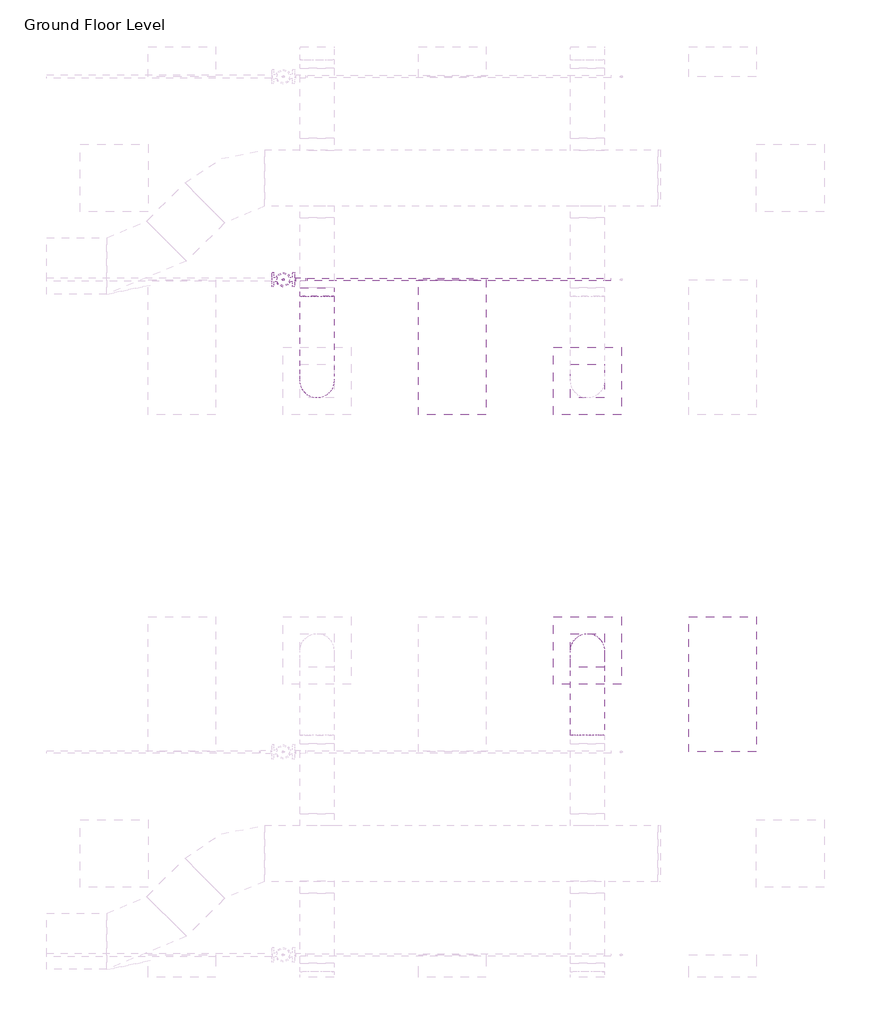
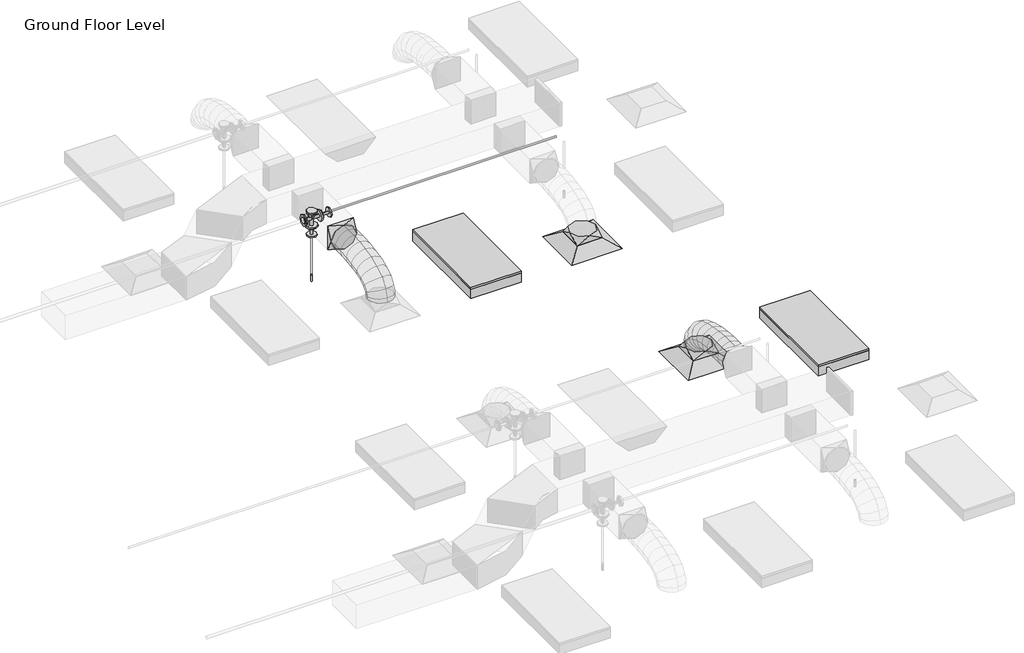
# One storey, part 37 of 66: 3 duct fittings, 3 pipe fittings, 2 air terminals, 2 duct segments, 2 light fixtures, 2 pipe segments, 1 fire suppression terminal.
"""IFC4 building model written with IfcOpenShell, lengths in millimetres."""

from ifc_helpers import new_model, si_unit, point, frame, frame_2d, origin, place, context, project, spatial, circle_curve, ellipse_curve, trimmed, segment, composite_curve, outline, extrude, transform, mapped, element, save
from ifc_brep_helpers import plane_surface, cylinder_surface, advanced_brep
from components import m_return_diffuser_600_x_600_face_300_x_300_connection_ff221211, m_rectangular_to_round_transition_angle_45_degree_641efff0, m_sprinkler_dry_pendent_hosted_15_mm_dry_pendent_9bda8e11, m_troffer_light_parabolic_rectangular1_0600x1200mm_4_lamp_86473d4a, m_reducer_flanged_cs_class_150_standard_ccf252ad, m_tee_round_base_flanged_cs_class_150_standard_7e5987a1

model = new_model("IFC4")

# Units and contexts
model_context = context("Model", 3, world=origin())
ifc_project = project(units=[si_unit("LENGTHUNIT", "METRE", prefix="MILLI")], contexts=[model_context])

# Site, building, storey
site = spatial("IfcSite", under=ifc_project)
building = spatial("IfcBuilding", under=site)
storey = spatial("IfcBuildingStorey", under=building, Name="Ground Floor Level", Elevation=900.0)

# Air terminals
placement = place(None, origin())
m_return_diffuser_600_x_600_face_300_x_300_connection_shape = m_return_diffuser_600_x_600_face_300_x_300_connection_ff221211(model_context)
element("IfcAirTerminal", 1, ObjectType="M_Supply Diffuser : 600 x 600 Face 300 x 300 Connection", at=placement, inside=storey, context=model_context, shape_type="MappedRepresentation", body=[
    mapped(m_return_diffuser_600_x_600_face_300_x_300_connection_shape, transform((13142.7672395, -1074.7846466, 3650.0), x_axis=(1.0, 0.0, 0.0), y_axis=(0.0, 1.0, 0.0), z_axis=(0.0, 0.0, 1.0))),
])
element("IfcAirTerminal", 2, ObjectType="M_Supply Diffuser : 600 x 600 Face 300 x 300 Connection", at=placement, inside=storey, context=model_context, shape_type="MappedRepresentation", body=[
    mapped(m_return_diffuser_600_x_600_face_300_x_300_connection_shape, transform((13142.7672395, -3464.7846466, 3650.0), x_axis=(1.0, 0.0, 0.0), y_axis=(0.0, 1.0, 0.0), z_axis=(0.0, 0.0, 1.0))),
])

# Duct fittings
m_rectangular_to_round_transition_angle_45_degree_shape = m_rectangular_to_round_transition_angle_45_degree_641efff0(model_context)
element("IfcDuctFitting", 3, ObjectType="M_Rectangular to Round Transition - Angle : 45 Degree", at=placement, inside=storey, context=model_context, shape_type="MappedRepresentation", body=[
    mapped(m_rectangular_to_round_transition_angle_45_degree_shape, transform((13142.7672395, -3464.7846466, 3751.6), x_axis=(0.0, 0.0, 1.0), y_axis=(-1.0, 0.0, 0.0), z_axis=(0.0, -1.0, 0.0))),
])
element("IfcDuctFitting", 4, ObjectType="M_Rectangular to Round Transition - Angle : 45 Degree", at=placement, inside=storey, context=model_context, shape_type="MappedRepresentation", body=[
    mapped(m_rectangular_to_round_transition_angle_45_degree_shape, transform((10742.7672395, -247.4487153, 4100.0), x_axis=(0.0, -1.0, 0.0), y_axis=(1.0, 0.0, 0.0), z_axis=(0.0, 0.0, 1.0))),
])
element("IfcDuctFitting", 5, ObjectType="M_Rectangular to Round Transition - Angle : 45 Degree", at=placement, inside=storey, context=model_context, shape_type="MappedRepresentation", body=[
    mapped(m_rectangular_to_round_transition_angle_45_degree_shape, transform((13142.7672395, -1074.7846466, 3751.6), x_axis=(0.0, 0.0, 1.0), y_axis=(-1.0, 0.0, 0.0), z_axis=(0.0, -1.0, 0.0))),
])

# Duct segments
element("IfcDuctSegment", 6, ObjectType="Flex - Round", at=placement, inside=storey, context=model_context, shape_type="AdvancedBrep", body=[
    advanced_brep(
    [(13292.7672395, -3464.7846466, 3826.6), (13142.7672395, -3614.7846466, 3826.6), (12992.7672395, -3464.7846466, 3826.6), (13142.7672395, -3314.7846466, 3826.6), (13292.7672395, -3464.7846466, 3857.9377114), (13142.7672395, -3614.7846466, 3832.2944892), (12992.7672395, -3464.7846466, 3857.9377114), (13142.7672395, -3314.7846466, 3883.5809337), (13292.7672395, -3481.8005792, 3906.2505728), (13142.7672395, -3615.5385581, 3834.435049), (12992.7672395, -3481.8005792, 3906.2505728), (13142.7672395, -3348.0626002, 3978.0660967), (13292.7672395, -3528.9844595, 3968.7113131), (13142.7672395, -3633.1903588, 3857.8020236), (12992.7672395, -3528.9844595, 3968.7113131), (13142.7672395, -3424.7785603, 4079.6206026), (13292.7672395, -3600.5404117, 4016.0700639), (13142.7672395, -3669.4744673, 3881.8163788), (12992.7672395, -3600.5404117, 4016.0700639), (13142.7672395, -3531.606356, 4150.3237489), (13292.7672395, -3690.6725597, 4050.4146682), (13142.7672395, -3734.2333228, 3906.4925606), (12992.7672395, -3690.6725597, 4050.4146682), (13142.7672395, -3647.1117965, 4194.3367758), (13292.7672395, -3793.5850275, 4073.8329691), (13142.7672395, -3820.1459515, 3926.0424542), (12992.7672395, -3793.5850275, 4073.8329691), (13142.7672395, -3767.0241035, 4221.6234841), (13292.7672395, -3903.4819392, 4088.4128097), (13142.7672395, -3918.6328416, 3939.1085462), (12992.7672395, -3903.4819392, 4088.4128097), (13142.7672395, -3888.3310369, 4237.7170733), (13292.7672395, -4014.5674189, 4096.242033), (13142.7672395, -4022.0727471, 3946.398915), (12992.7672395, -4014.5674189, 4096.242033), (13142.7672395, -4007.0620907, 4246.085151), (13292.7672395, -4121.0455904, 4099.4084821), (13142.7672395, -4123.7370835, 3949.4222102), (12992.7672395, -4121.0455904, 4099.4084821), (13142.7672395, -4118.3540973, 4249.394754), (13292.7672395, -4217.1205779, 4100.0), (13142.7672395, -4216.1970701, 4249.9971571), (12992.7672395, -4217.1205779, 4100.0), (13142.7672395, -4218.0440857, 3950.0028429)],
    [
        (0, 1, circle_curve(frame((13142.7672395, -3464.7846466, 3826.6), z_axis=(0.0, 0.0, -1.0), x_axis=(1.0, 0.0, 0.0)), 150.0)),
        (1, 2, circle_curve(frame((13142.7672395, -3464.7846466, 3826.6), z_axis=(0.0, 0.0, -1.0), x_axis=(1.0, 0.0, 0.0)), 150.0)),
        (2, 3, circle_curve(frame((13142.7672395, -3464.7846466, 3826.6), z_axis=(0.0, 0.0, -1.0), x_axis=(1.0, 0.0, 0.0)), 150.0)),
        (3, 0, circle_curve(frame((13142.7672395, -3464.7846466, 3826.6), z_axis=(0.0, 0.0, -1.0), x_axis=(1.0, 0.0, 0.0)), 150.0)),
        (0, 4),
        (4, 5, ellipse_curve(frame((13142.7672395, -3464.7846466, 3857.9377114), z_axis=(0.0, 0.16851014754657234, -0.9856999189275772), x_axis=(0.0, -0.9856999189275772, -0.1685101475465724)), 152.176131, 150.0)),
        (5, 1),
        (5, 6, ellipse_curve(frame((13142.7672395, -3464.7846466, 3857.9377114), z_axis=(0.0, 0.16851014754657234, -0.9856999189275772), x_axis=(0.0, -0.9856999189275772, -0.1685101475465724)), 152.176131, 150.0)),
        (6, 2),
        (6, 7, ellipse_curve(frame((13142.7672395, -3464.7846466, 3857.9377114), z_axis=(0.0, 0.16851014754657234, -0.9856999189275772), x_axis=(0.0, -0.9856999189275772, -0.1685101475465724)), 152.176131, 150.0)),
        (7, 3),
        (7, 4, ellipse_curve(frame((13142.7672395, -3464.7846466, 3857.9377114), z_axis=(0.0, 0.16851014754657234, -0.9856999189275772), x_axis=(0.0, -0.9856999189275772, -0.1685101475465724)), 152.176131, 150.0)),
        (4, 8),
        (8, 9, ellipse_curve(frame((13142.7672395, -3481.8005792, 3906.2505728), z_axis=(0.0, 0.47309225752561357, -0.8810128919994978), x_axis=(0.0, -0.8810128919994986, -0.47309225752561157)), 151.8002519, 150.0)),
        (9, 5),
        (9, 10, ellipse_curve(frame((13142.7672395, -3481.8005792, 3906.2505728), z_axis=(0.0, 0.47309225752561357, -0.8810128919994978), x_axis=(0.0, -0.8810128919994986, -0.47309225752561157)), 151.8002519, 150.0)),
        (10, 6),
        (10, 11, ellipse_curve(frame((13142.7672395, -3481.8005792, 3906.2505728), z_axis=(0.0, 0.47309225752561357, -0.8810128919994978), x_axis=(0.0, -0.8810128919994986, -0.47309225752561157)), 151.8002519, 150.0)),
        (11, 7),
        (11, 8, ellipse_curve(frame((13142.7672395, -3481.8005792, 3906.2505728), z_axis=(0.0, 0.47309225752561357, -0.8810128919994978), x_axis=(0.0, -0.8810128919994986, -0.47309225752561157)), 151.8002519, 150.0)),
        (8, 12),
        (12, 13, ellipse_curve(frame((13142.7672395, -3528.9844595, 3968.7113131), z_axis=(0.0, 0.7287877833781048, -0.6847396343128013), x_axis=(0.0, -0.6847396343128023, -0.7287877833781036)), 152.1832446, 150.0)),
        (13, 9),
        (13, 14, ellipse_curve(frame((13142.7672395, -3528.9844595, 3968.7113131), z_axis=(0.0, 0.7287877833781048, -0.6847396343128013), x_axis=(0.0, -0.6847396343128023, -0.7287877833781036)), 152.1832446, 150.0)),
        (14, 10),
        (14, 15, ellipse_curve(frame((13142.7672395, -3528.9844595, 3968.7113131), z_axis=(0.0, 0.7287877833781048, -0.6847396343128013), x_axis=(0.0, -0.6847396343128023, -0.7287877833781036)), 152.1832446, 150.0)),
        (15, 11),
        (15, 12, ellipse_curve(frame((13142.7672395, -3528.9844595, 3968.7113131), z_axis=(0.0, 0.7287877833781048, -0.6847396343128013), x_axis=(0.0, -0.6847396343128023, -0.7287877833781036)), 152.1832446, 150.0)),
        (12, 16),
        (16, 17, ellipse_curve(frame((13142.7672395, -3600.5404117, 4016.0700639), z_axis=(0.0, 0.8895859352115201, -0.45676784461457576), x_axis=(0.0, -0.45676784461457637, -0.8895859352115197)), 150.91705, 150.0)),
        (17, 13),
        (17, 18, ellipse_curve(frame((13142.7672395, -3600.5404117, 4016.0700639), z_axis=(0.0, 0.8895859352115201, -0.45676784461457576), x_axis=(0.0, -0.45676784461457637, -0.8895859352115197)), 150.91705, 150.0)),
        (18, 14),
        (18, 19, ellipse_curve(frame((13142.7672395, -3600.5404117, 4016.0700639), z_axis=(0.0, 0.8895859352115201, -0.45676784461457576), x_axis=(0.0, -0.45676784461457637, -0.8895859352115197)), 150.91705, 150.0)),
        (19, 15),
        (19, 16, ellipse_curve(frame((13142.7672395, -3600.5404117, 4016.0700639), z_axis=(0.0, 0.8895859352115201, -0.45676784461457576), x_axis=(0.0, -0.45676784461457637, -0.8895859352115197)), 150.91705, 150.0)),
        (16, 20),
        (20, 21, ellipse_curve(frame((13142.7672395, -3690.6725597, 4050.4146682), z_axis=(0.0, 0.9571203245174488, -0.2896906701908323), x_axis=(0.0, -0.2896906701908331, -0.9571203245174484)), 150.369921, 150.0)),
        (21, 17),
        (21, 22, ellipse_curve(frame((13142.7672395, -3690.6725597, 4050.4146682), z_axis=(0.0, 0.9571203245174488, -0.2896906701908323), x_axis=(0.0, -0.2896906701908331, -0.9571203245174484)), 150.369921, 150.0)),
        (22, 18),
        (22, 23, ellipse_curve(frame((13142.7672395, -3690.6725597, 4050.4146682), z_axis=(0.0, 0.9571203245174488, -0.2896906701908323), x_axis=(0.0, -0.2896906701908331, -0.9571203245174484)), 150.369921, 150.0)),
        (23, 19),
        (23, 20, ellipse_curve(frame((13142.7672395, -3690.6725597, 4050.4146682), z_axis=(0.0, 0.9571203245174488, -0.2896906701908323), x_axis=(0.0, -0.2896906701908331, -0.9571203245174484)), 150.369921, 150.0)),
        (20, 24),
        (24, 25, ellipse_curve(frame((13142.7672395, -3793.5850275, 4073.8329691), z_axis=(0.0, 0.9842313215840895, -0.17688613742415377), x_axis=(0.0, -0.17688613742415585, -0.9842313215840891)), 150.1583131, 150.0)),
        (25, 21),
        (25, 26, ellipse_curve(frame((13142.7672395, -3793.5850275, 4073.8329691), z_axis=(0.0, 0.9842313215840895, -0.17688613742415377), x_axis=(0.0, -0.17688613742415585, -0.9842313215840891)), 150.1583131, 150.0)),
        (26, 22),
        (26, 27, ellipse_curve(frame((13142.7672395, -3793.5850275, 4073.8329691), z_axis=(0.0, 0.9842313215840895, -0.17688613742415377), x_axis=(0.0, -0.17688613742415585, -0.9842313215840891)), 150.1583131, 150.0)),
        (27, 23),
        (27, 24, ellipse_curve(frame((13142.7672395, -3793.5850275, 4073.8329691), z_axis=(0.0, 0.9842313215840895, -0.17688613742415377), x_axis=(0.0, -0.17688613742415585, -0.9842313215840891)), 150.1583131, 150.0)),
        (24, 28),
        (28, 29, ellipse_curve(frame((13142.7672395, -3903.4819392, 4088.4128097), z_axis=(0.0, 0.9948906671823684, -0.10095821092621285), x_axis=(0.0, -0.10095821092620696, -0.9948906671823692)), 150.0710264, 150.0)),
        (29, 25),
        (29, 30, ellipse_curve(frame((13142.7672395, -3903.4819392, 4088.4128097), z_axis=(0.0, 0.9948906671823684, -0.10095821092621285), x_axis=(0.0, -0.10095821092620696, -0.9948906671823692)), 150.0710264, 150.0)),
        (30, 26),
        (30, 31, ellipse_curve(frame((13142.7672395, -3903.4819392, 4088.4128097), z_axis=(0.0, 0.9948906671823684, -0.10095821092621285), x_axis=(0.0, -0.10095821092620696, -0.9948906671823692)), 150.0710264, 150.0)),
        (31, 27),
        (31, 28, ellipse_curve(frame((13142.7672395, -3903.4819392, 4088.4128097), z_axis=(0.0, 0.9948906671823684, -0.10095821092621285), x_axis=(0.0, -0.10095821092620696, -0.9948906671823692)), 150.0710264, 150.0)),
        (28, 32),
        (32, 33, ellipse_curve(frame((13142.7672395, -4014.5674189, 4096.242033), z_axis=(0.0, 0.9987479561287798, -0.05002519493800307), x_axis=(0.0, -0.050025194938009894, -0.9987479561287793)), 150.0309634, 150.0)),
        (33, 29),
        (33, 34, ellipse_curve(frame((13142.7672395, -4014.5674189, 4096.242033), z_axis=(0.0, 0.9987479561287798, -0.05002519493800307), x_axis=(0.0, -0.050025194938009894, -0.9987479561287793)), 150.0309634, 150.0)),
        (34, 30),
        (34, 35, ellipse_curve(frame((13142.7672395, -4014.5674189, 4096.242033), z_axis=(0.0, 0.9987479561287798, -0.05002519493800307), x_axis=(0.0, -0.050025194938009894, -0.9987479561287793)), 150.0309634, 150.0)),
        (35, 31),
        (35, 32, ellipse_curve(frame((13142.7672395, -4014.5674189, 4096.242033), z_axis=(0.0, 0.9987479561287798, -0.05002519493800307), x_axis=(0.0, -0.050025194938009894, -0.9987479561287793)), 150.0309634, 150.0)),
        (32, 36),
        (36, 37, ellipse_curve(frame((13142.7672395, -4121.0455904, 4099.4084821), z_axis=(0.0, 0.9998390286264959, -0.017942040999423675), x_axis=(-1.8187895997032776e-12, -0.017942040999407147, -0.9998390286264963)), 150.0104193, 150.0)),
        (37, 33),
        (37, 38, ellipse_curve(frame((13142.7672395, -4121.0455904, 4099.4084821), z_axis=(0.0, 0.9998390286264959, -0.017942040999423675), x_axis=(-1.8187895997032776e-12, -0.017942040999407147, -0.9998390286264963)), 150.0104193, 150.0)),
        (38, 34),
        (38, 39, ellipse_curve(frame((13142.7672395, -4121.0455904, 4099.4084821), z_axis=(0.0, 0.9998390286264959, -0.017942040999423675), x_axis=(-1.8187895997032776e-12, -0.017942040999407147, -0.9998390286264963)), 150.0104193, 150.0)),
        (39, 35),
        (39, 36, ellipse_curve(frame((13142.7672395, -4121.0455904, 4099.4084821), z_axis=(0.0, 0.9998390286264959, -0.017942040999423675), x_axis=(-1.8187895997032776e-12, -0.017942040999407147, -0.9998390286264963)), 150.0104193, 150.0)),
        (40, 41, circle_curve(frame((13142.7672395, -4217.1205779, 4100.0), z_axis=(0.0, -0.9999810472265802, 0.006156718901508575), x_axis=(1.0, 0.0, 0.0)), 150.0)),
        (41, 42, circle_curve(frame((13142.7672395, -4217.1205779, 4100.0), z_axis=(0.0, -0.9999810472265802, 0.006156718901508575), x_axis=(1.0, 0.0, 0.0)), 150.0)),
        (42, 43, circle_curve(frame((13142.7672395, -4217.1205779, 4100.0), z_axis=(0.0, -0.9999810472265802, 0.006156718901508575), x_axis=(1.0, 0.0, 0.0)), 150.0)),
        (43, 40, circle_curve(frame((13142.7672395, -4217.1205779, 4100.0), z_axis=(0.0, -0.9999810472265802, 0.006156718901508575), x_axis=(1.0, 0.0, 0.0)), 150.0)),
        (36, 40),
        (43, 37),
        (42, 38),
        (41, 39),
    ],
    [
        plane_surface(frame((13142.7672395, -3614.7846466, 3826.6), z_axis=(0.0, 0.0, -1.0), x_axis=(1.0, 0.0, 0.0))),
        cylinder_surface(frame((13142.7672395, -3464.7846466, 3826.6), z_axis=(0.0, 0.0, -1.0), x_axis=(1.0, 0.0, 0.0)), 150.0),
        cylinder_surface(frame((13142.7672395, -3464.7846466, 3857.9377114), z_axis=(0.0, 0.3322008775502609, -0.9432086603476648), x_axis=(1.0, 0.0, 0.0)), 150.0),
        cylinder_surface(frame((13142.7672395, -3481.8005792, 3906.2505728), z_axis=(0.0, 0.6027625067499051, -0.7979206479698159), x_axis=(1.0, 0.0, 0.0)), 150.0),
        cylinder_surface(frame((13142.7672395, -3528.9844595, 3968.7113131), z_axis=(0.0, 0.833902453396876, -0.5519118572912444), x_axis=(1.0, 0.0, 0.0)), 150.0),
        cylinder_surface(frame((13142.7672395, -3600.5404117, 4016.0700639), z_axis=(0.0, 0.9344582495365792, -0.35607271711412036), x_axis=(1.0, 0.0, 0.0)), 150.0),
        cylinder_surface(frame((13142.7672395, -3690.6725597, 4050.4146682), z_axis=(0.0, 0.9750732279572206, -0.22188330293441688), x_axis=(1.0, 0.0, 0.0)), 150.0),
        cylinder_surface(frame((13142.7672395, -3793.5850275, 4073.8329691), z_axis=(0.0, 0.9913140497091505, -0.1315159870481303), x_axis=(1.0, 0.0, 0.0)), 150.0),
        cylinder_surface(frame((13142.7672395, -3903.4819392, 4088.4128097), z_axis=(0.0, 0.9975255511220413, -0.070304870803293), x_axis=(1.0, 0.0, 0.0)), 150.0),
        cylinder_surface(frame((13142.7672395, -4014.5674189, 4096.242033), z_axis=(0.0, 0.9995581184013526, -0.02972487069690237), x_axis=(1.0, 0.0, 0.0)), 150.0),
        plane_surface(frame((13142.7672395, -4218.0440857, 3950.0028429), z_axis=(0.0, -0.9999810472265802, 0.006156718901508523), x_axis=(1.0, 0.0, 0.0))),
        cylinder_surface(frame((13142.7672395, -4121.0455904, 4099.4084821), z_axis=(0.0, 0.9999810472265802, -0.006156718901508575), x_axis=(1.0, 0.0, 0.0)), 150.0),
    ],
    [
        (0, [[1, 2, 3, 4]]),
        (1, [[-1, 5, 6, 7]]),
        (1, [[-2, -7, 8, 9]]),
        (1, [[-3, -9, 10, 11]]),
        (1, [[-4, -11, 12, -5]]),
        (2, [[-6, 13, 14, 15]]),
        (2, [[-8, -15, 16, 17]]),
        (2, [[-10, -17, 18, 19]]),
        (2, [[-12, -19, 20, -13]]),
        (3, [[-14, 21, 22, 23]]),
        (3, [[-16, -23, 24, 25]]),
        (3, [[-18, -25, 26, 27]]),
        (3, [[-20, -27, 28, -21]]),
        (4, [[-22, 29, 30, 31]]),
        (4, [[-24, -31, 32, 33]]),
        (4, [[-26, -33, 34, 35]]),
        (4, [[-28, -35, 36, -29]]),
        (5, [[-30, 37, 38, 39]]),
        (5, [[-32, -39, 40, 41]]),
        (5, [[-34, -41, 42, 43]]),
        (5, [[-36, -43, 44, -37]]),
        (6, [[-38, 45, 46, 47]]),
        (6, [[-40, -47, 48, 49]]),
        (6, [[-42, -49, 50, 51]]),
        (6, [[-44, -51, 52, -45]]),
        (7, [[-46, 53, 54, 55]]),
        (7, [[-48, -55, 56, 57]]),
        (7, [[-50, -57, 58, 59]]),
        (7, [[-52, -59, 60, -53]]),
        (8, [[-54, 61, 62, 63]]),
        (8, [[-56, -63, 64, 65]]),
        (8, [[-58, -65, 66, 67]]),
        (8, [[-60, -67, 68, -61]]),
        (9, [[-62, 69, 70, 71]]),
        (9, [[-64, -71, 72, 73]]),
        (9, [[-66, -73, 74, 75]]),
        (9, [[-68, -75, 76, -69]]),
        (10, [[77, 78, 79, 80]]),
        (11, [[-70, 81, -80, 82]]),
        (11, [[-72, -82, -79, 83]]),
        (11, [[-74, -83, -78, 84]]),
        (11, [[-76, -84, -77, -81]]),
    ],
),
])
element("IfcDuctSegment", 7, ObjectType="Flex - Round", at=placement, inside=storey, context=model_context, shape_type="AdvancedBrep", body=[
    advanced_brep(
    [(10892.7672395, -1074.7846466, 3826.6), (10742.7672395, -1224.7846466, 3826.6), (10592.7672395, -1074.7846466, 3826.6), (10742.7672395, -924.7846466, 3826.6), (10892.7672395, -1074.7846466, 3857.9377114), (10742.7672395, -1224.7846466, 3883.5809337), (10592.7672395, -1074.7846466, 3857.9377114), (10742.7672395, -924.7846466, 3832.2944892), (10892.7672395, -1057.7687141, 3906.2505728), (10742.7672395, -1191.506693, 3978.0660967), (10592.7672395, -1057.7687141, 3906.2505728), (10742.7672395, -924.0307351, 3834.435049), (10892.7672395, -1010.5848337, 3968.7113131), (10742.7672395, -1114.790733, 4079.6206026), (10592.7672395, -1010.5848337, 3968.7113131), (10742.7672395, -906.3789345, 3857.8020236), (10892.7672395, -939.0288816, 4016.0700639), (10742.7672395, -1007.9629372, 4150.3237489), (10592.7672395, -939.0288816, 4016.0700639), (10742.7672395, -870.0948259, 3881.8163788), (10892.7672395, -848.8967336, 4050.4146682), (10742.7672395, -892.4574967, 4194.3367758), (10592.7672395, -848.8967336, 4050.4146682), (10742.7672395, -805.3359704, 3906.4925606), (10892.7672395, -745.9842657, 4073.8329691), (10742.7672395, -772.5451897, 4221.6234841), (10592.7672395, -745.9842657, 4073.8329691), (10742.7672395, -719.4233417, 3926.0424542), (10892.7672395, -636.087354, 4088.4128097), (10742.7672395, -651.2382563, 4237.7170733), (10592.7672395, -636.087354, 4088.4128097), (10742.7672395, -620.9364516, 3939.1085462), (10892.7672395, -525.0018744, 4096.242033), (10742.7672395, -532.5072025, 4246.085151), (10592.7672395, -525.0018744, 4096.242033), (10742.7672395, -517.4965462, 3946.398915), (10892.7672395, -418.5237028, 4099.4084821), (10742.7672395, -421.2151959, 4249.394754), (10592.7672395, -418.5237028, 4099.4084821), (10742.7672395, -415.8322097, 3949.4222102), (10892.7672395, -322.4487153, 4100.0), (10742.7672395, -321.5252075, 3950.0028429), (10592.7672395, -322.4487153, 4100.0), (10742.7672395, -323.3722232, 4249.9971571)],
    [
        (0, 1, circle_curve(frame((10742.7672395, -1074.7846466, 3826.6), z_axis=(0.0, 0.0, -1.0), x_axis=(1.0, 0.0, 0.0)), 150.0)),
        (1, 2, circle_curve(frame((10742.7672395, -1074.7846466, 3826.6), z_axis=(0.0, 0.0, -1.0), x_axis=(1.0, 0.0, 0.0)), 150.0)),
        (2, 3, circle_curve(frame((10742.7672395, -1074.7846466, 3826.6), z_axis=(0.0, 0.0, -1.0), x_axis=(1.0, 0.0, 0.0)), 150.0)),
        (3, 0, circle_curve(frame((10742.7672395, -1074.7846466, 3826.6), z_axis=(0.0, 0.0, -1.0), x_axis=(1.0, 0.0, 0.0)), 150.0)),
        (0, 4),
        (4, 5, ellipse_curve(frame((10742.7672395, -1074.7846466, 3857.9377114), z_axis=(0.0, -0.16851014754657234, -0.9856999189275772), x_axis=(0.0, 0.9856999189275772, -0.1685101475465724)), 152.176131, 150.0)),
        (5, 1),
        (5, 6, ellipse_curve(frame((10742.7672395, -1074.7846466, 3857.9377114), z_axis=(0.0, -0.16851014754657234, -0.9856999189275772), x_axis=(0.0, 0.9856999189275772, -0.1685101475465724)), 152.176131, 150.0)),
        (6, 2),
        (6, 7, ellipse_curve(frame((10742.7672395, -1074.7846466, 3857.9377114), z_axis=(0.0, -0.16851014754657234, -0.9856999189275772), x_axis=(0.0, 0.9856999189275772, -0.1685101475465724)), 152.176131, 150.0)),
        (7, 3),
        (7, 4, ellipse_curve(frame((10742.7672395, -1074.7846466, 3857.9377114), z_axis=(0.0, -0.16851014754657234, -0.9856999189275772), x_axis=(0.0, 0.9856999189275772, -0.1685101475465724)), 152.176131, 150.0)),
        (4, 8),
        (8, 9, ellipse_curve(frame((10742.7672395, -1057.7687141, 3906.2505728), z_axis=(0.0, -0.4730922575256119, -0.8810128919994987), x_axis=(0.0, 0.8810128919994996, -0.47309225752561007)), 151.8002519, 150.0)),
        (9, 5),
        (9, 10, ellipse_curve(frame((10742.7672395, -1057.7687141, 3906.2505728), z_axis=(0.0, -0.4730922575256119, -0.8810128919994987), x_axis=(0.0, 0.8810128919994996, -0.47309225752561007)), 151.8002519, 150.0)),
        (10, 6),
        (10, 11, ellipse_curve(frame((10742.7672395, -1057.7687141, 3906.2505728), z_axis=(0.0, -0.4730922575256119, -0.8810128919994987), x_axis=(0.0, 0.8810128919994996, -0.47309225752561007)), 151.8002519, 150.0)),
        (11, 7),
        (11, 8, ellipse_curve(frame((10742.7672395, -1057.7687141, 3906.2505728), z_axis=(0.0, -0.4730922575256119, -0.8810128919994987), x_axis=(0.0, 0.8810128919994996, -0.47309225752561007)), 151.8002519, 150.0)),
        (8, 12),
        (12, 13, ellipse_curve(frame((10742.7672395, -1010.5848337, 3968.7113131), z_axis=(0.0, -0.7287877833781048, -0.6847396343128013), x_axis=(0.0, 0.6847396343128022, -0.7287877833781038)), 152.1832446, 150.0)),
        (13, 9),
        (13, 14, ellipse_curve(frame((10742.7672395, -1010.5848337, 3968.7113131), z_axis=(0.0, -0.7287877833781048, -0.6847396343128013), x_axis=(0.0, 0.6847396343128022, -0.7287877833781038)), 152.1832446, 150.0)),
        (14, 10),
        (14, 15, ellipse_curve(frame((10742.7672395, -1010.5848337, 3968.7113131), z_axis=(0.0, -0.7287877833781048, -0.6847396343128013), x_axis=(0.0, 0.6847396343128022, -0.7287877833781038)), 152.1832446, 150.0)),
        (15, 11),
        (15, 12, ellipse_curve(frame((10742.7672395, -1010.5848337, 3968.7113131), z_axis=(0.0, -0.7287877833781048, -0.6847396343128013), x_axis=(0.0, 0.6847396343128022, -0.7287877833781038)), 152.1832446, 150.0)),
        (12, 16),
        (16, 17, ellipse_curve(frame((10742.7672395, -939.0288816, 4016.0700639), z_axis=(0.0, -0.8895859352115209, -0.45676784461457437), x_axis=(0.0, 0.4567678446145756, -0.8895859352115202)), 150.91705, 150.0)),
        (17, 13),
        (17, 18, ellipse_curve(frame((10742.7672395, -939.0288816, 4016.0700639), z_axis=(0.0, -0.8895859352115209, -0.45676784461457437), x_axis=(0.0, 0.4567678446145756, -0.8895859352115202)), 150.91705, 150.0)),
        (18, 14),
        (18, 19, ellipse_curve(frame((10742.7672395, -939.0288816, 4016.0700639), z_axis=(0.0, -0.8895859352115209, -0.45676784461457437), x_axis=(0.0, 0.4567678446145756, -0.8895859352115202)), 150.91705, 150.0)),
        (19, 15),
        (19, 16, ellipse_curve(frame((10742.7672395, -939.0288816, 4016.0700639), z_axis=(0.0, -0.8895859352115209, -0.45676784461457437), x_axis=(0.0, 0.4567678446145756, -0.8895859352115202)), 150.91705, 150.0)),
        (16, 20),
        (20, 21, ellipse_curve(frame((10742.7672395, -848.8967336, 4050.4146682), z_axis=(0.0, -0.9571203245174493, -0.28969067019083), x_axis=(0.0, 0.2896906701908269, -0.9571203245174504)), 150.369921, 150.0)),
        (21, 17),
        (21, 22, ellipse_curve(frame((10742.7672395, -848.8967336, 4050.4146682), z_axis=(0.0, -0.9571203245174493, -0.28969067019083), x_axis=(0.0, 0.2896906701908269, -0.9571203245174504)), 150.369921, 150.0)),
        (22, 18),
        (22, 23, ellipse_curve(frame((10742.7672395, -848.8967336, 4050.4146682), z_axis=(0.0, -0.9571203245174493, -0.28969067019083), x_axis=(0.0, 0.2896906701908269, -0.9571203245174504)), 150.369921, 150.0)),
        (23, 19),
        (23, 20, ellipse_curve(frame((10742.7672395, -848.8967336, 4050.4146682), z_axis=(0.0, -0.9571203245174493, -0.28969067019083), x_axis=(0.0, 0.2896906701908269, -0.9571203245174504)), 150.369921, 150.0)),
        (20, 24),
        (24, 25, ellipse_curve(frame((10742.7672395, -745.9842657, 4073.8329691), z_axis=(0.0, -0.9842313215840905, -0.17688613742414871), x_axis=(0.0, 0.17688613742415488, -0.9842313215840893)), 150.1583131, 150.0)),
        (25, 21),
        (25, 26, ellipse_curve(frame((10742.7672395, -745.9842657, 4073.8329691), z_axis=(0.0, -0.9842313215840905, -0.17688613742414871), x_axis=(0.0, 0.17688613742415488, -0.9842313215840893)), 150.1583131, 150.0)),
        (26, 22),
        (26, 27, ellipse_curve(frame((10742.7672395, -745.9842657, 4073.8329691), z_axis=(0.0, -0.9842313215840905, -0.17688613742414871), x_axis=(0.0, 0.17688613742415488, -0.9842313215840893)), 150.1583131, 150.0)),
        (27, 23),
        (27, 24, ellipse_curve(frame((10742.7672395, -745.9842657, 4073.8329691), z_axis=(0.0, -0.9842313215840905, -0.17688613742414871), x_axis=(0.0, 0.17688613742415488, -0.9842313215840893)), 150.1583131, 150.0)),
        (24, 28),
        (28, 29, ellipse_curve(frame((10742.7672395, -636.087354, 4088.4128097), z_axis=(0.0, -0.9948906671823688, -0.10095821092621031), x_axis=(0.0, 0.10095821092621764, -0.994890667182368)), 150.0710264, 150.0)),
        (29, 25),
        (29, 30, ellipse_curve(frame((10742.7672395, -636.087354, 4088.4128097), z_axis=(0.0, -0.9948906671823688, -0.10095821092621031), x_axis=(0.0, 0.10095821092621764, -0.994890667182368)), 150.0710264, 150.0)),
        (30, 26),
        (30, 31, ellipse_curve(frame((10742.7672395, -636.087354, 4088.4128097), z_axis=(0.0, -0.9948906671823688, -0.10095821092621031), x_axis=(0.0, 0.10095821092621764, -0.994890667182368)), 150.0710264, 150.0)),
        (31, 27),
        (31, 28, ellipse_curve(frame((10742.7672395, -636.087354, 4088.4128097), z_axis=(0.0, -0.9948906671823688, -0.10095821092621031), x_axis=(0.0, 0.10095821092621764, -0.994890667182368)), 150.0710264, 150.0)),
        (28, 32),
        (32, 33, ellipse_curve(frame((10742.7672395, -525.0018744, 4096.242033), z_axis=(0.0, -0.9987479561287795, -0.050025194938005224), x_axis=(0.0, 0.050025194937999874, -0.9987479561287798)), 150.0309634, 150.0)),
        (33, 29),
        (33, 34, ellipse_curve(frame((10742.7672395, -525.0018744, 4096.242033), z_axis=(0.0, -0.9987479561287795, -0.050025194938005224), x_axis=(0.0, 0.050025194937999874, -0.9987479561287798)), 150.0309634, 150.0)),
        (34, 30),
        (34, 35, ellipse_curve(frame((10742.7672395, -525.0018744, 4096.242033), z_axis=(0.0, -0.9987479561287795, -0.050025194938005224), x_axis=(0.0, 0.050025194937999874, -0.9987479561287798)), 150.0309634, 150.0)),
        (35, 31),
        (35, 32, ellipse_curve(frame((10742.7672395, -525.0018744, 4096.242033), z_axis=(0.0, -0.9987479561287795, -0.050025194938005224), x_axis=(0.0, 0.050025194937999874, -0.9987479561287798)), 150.0309634, 150.0)),
        (32, 36),
        (36, 37, ellipse_curve(frame((10742.7672395, -418.5237028, 4099.4084821), z_axis=(0.0, -0.9998390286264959, -0.017942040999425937), x_axis=(0.0, 0.017942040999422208, -0.999839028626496)), 150.0104193, 150.0)),
        (37, 33),
        (37, 38, ellipse_curve(frame((10742.7672395, -418.5237028, 4099.4084821), z_axis=(0.0, -0.9998390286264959, -0.017942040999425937), x_axis=(0.0, 0.017942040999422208, -0.999839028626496)), 150.0104193, 150.0)),
        (38, 34),
        (38, 39, ellipse_curve(frame((10742.7672395, -418.5237028, 4099.4084821), z_axis=(0.0, -0.9998390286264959, -0.017942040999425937), x_axis=(0.0, 0.017942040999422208, -0.999839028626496)), 150.0104193, 150.0)),
        (39, 35),
        (39, 36, ellipse_curve(frame((10742.7672395, -418.5237028, 4099.4084821), z_axis=(0.0, -0.9998390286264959, -0.017942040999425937), x_axis=(0.0, 0.017942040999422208, -0.999839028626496)), 150.0104193, 150.0)),
        (40, 41, circle_curve(frame((10742.7672395, -322.4487153, 4100.0), z_axis=(0.0, 0.9999810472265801, 0.006156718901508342), x_axis=(1.0, 0.0, 0.0)), 150.0)),
        (41, 42, circle_curve(frame((10742.7672395, -322.4487153, 4100.0), z_axis=(0.0, 0.9999810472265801, 0.006156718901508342), x_axis=(1.0, 0.0, 0.0)), 150.0)),
        (42, 43, circle_curve(frame((10742.7672395, -322.4487153, 4100.0), z_axis=(0.0, 0.9999810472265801, 0.006156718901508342), x_axis=(1.0, 0.0, 0.0)), 150.0)),
        (43, 40, circle_curve(frame((10742.7672395, -322.4487153, 4100.0), z_axis=(0.0, 0.9999810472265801, 0.006156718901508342), x_axis=(1.0, 0.0, 0.0)), 150.0)),
        (36, 40),
        (43, 37),
        (42, 38),
        (41, 39),
    ],
    [
        plane_surface(frame((10742.7672395, -1224.7846466, 3826.6), z_axis=(0.0, 0.0, -1.0), x_axis=(1.0, 0.0, 0.0))),
        cylinder_surface(frame((10742.7672395, -1074.7846466, 3826.6), z_axis=(0.0, 0.0, -1.0), x_axis=(1.0, 0.0, 0.0)), 150.0),
        cylinder_surface(frame((10742.7672395, -1074.7846466, 3857.9377114), z_axis=(0.0, -0.3322008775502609, -0.9432086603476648), x_axis=(1.0, 0.0, 0.0)), 150.0),
        cylinder_surface(frame((10742.7672395, -1057.7687141, 3906.2505728), z_axis=(0.0, -0.6027625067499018, -0.7979206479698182), x_axis=(1.0, 0.0, 0.0)), 150.0),
        cylinder_surface(frame((10742.7672395, -1010.5848337, 3968.7113131), z_axis=(0.0, -0.8339024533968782, -0.5519118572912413), x_axis=(1.0, 0.0, 0.0)), 150.0),
        cylinder_surface(frame((10742.7672395, -939.0288816, 4016.0700639), z_axis=(0.0, -0.934458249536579, -0.35607271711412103), x_axis=(1.0, 0.0, 0.0)), 150.0),
        cylinder_surface(frame((10742.7672395, -848.8967336, 4050.4146682), z_axis=(0.0, -0.9750732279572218, -0.22188330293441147), x_axis=(1.0, 0.0, 0.0)), 150.0),
        cylinder_surface(frame((10742.7672395, -745.9842657, 4073.8329691), z_axis=(0.0, -0.9913140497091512, -0.13151598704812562), x_axis=(1.0, 0.0, 0.0)), 150.0),
        cylinder_surface(frame((10742.7672395, -636.087354, 4088.4128097), z_axis=(0.0, -0.9975255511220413, -0.07030487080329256), x_axis=(1.0, 0.0, 0.0)), 150.0),
        cylinder_surface(frame((10742.7672395, -525.0018744, 4096.242033), z_axis=(0.0, -0.9995581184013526, -0.029724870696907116), x_axis=(1.0, 0.0, 0.0)), 150.0),
        plane_surface(frame((10742.7672395, -323.3722232, 4249.9971571), z_axis=(0.0, 0.9999810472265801, 0.006156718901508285), x_axis=(1.0, 0.0, 0.0))),
        cylinder_surface(frame((10742.7672395, -418.5237028, 4099.4084821), z_axis=(0.0, -0.9999810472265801, -0.006156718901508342), x_axis=(1.0, 0.0, 0.0)), 150.0),
    ],
    [
        (0, [[1, 2, 3, 4]]),
        (1, [[-1, 5, 6, 7]]),
        (1, [[-2, -7, 8, 9]]),
        (1, [[-3, -9, 10, 11]]),
        (1, [[-4, -11, 12, -5]]),
        (2, [[-6, 13, 14, 15]]),
        (2, [[-8, -15, 16, 17]]),
        (2, [[-10, -17, 18, 19]]),
        (2, [[-12, -19, 20, -13]]),
        (3, [[-14, 21, 22, 23]]),
        (3, [[-16, -23, 24, 25]]),
        (3, [[-18, -25, 26, 27]]),
        (3, [[-20, -27, 28, -21]]),
        (4, [[-22, 29, 30, 31]]),
        (4, [[-24, -31, 32, 33]]),
        (4, [[-26, -33, 34, 35]]),
        (4, [[-28, -35, 36, -29]]),
        (5, [[-30, 37, 38, 39]]),
        (5, [[-32, -39, 40, 41]]),
        (5, [[-34, -41, 42, 43]]),
        (5, [[-36, -43, 44, -37]]),
        (6, [[-38, 45, 46, 47]]),
        (6, [[-40, -47, 48, 49]]),
        (6, [[-42, -49, 50, 51]]),
        (6, [[-44, -51, 52, -45]]),
        (7, [[-46, 53, 54, 55]]),
        (7, [[-48, -55, 56, 57]]),
        (7, [[-50, -57, 58, 59]]),
        (7, [[-52, -59, 60, -53]]),
        (8, [[-54, 61, 62, 63]]),
        (8, [[-56, -63, 64, 65]]),
        (8, [[-58, -65, 66, 67]]),
        (8, [[-60, -67, 68, -61]]),
        (9, [[-62, 69, 70, 71]]),
        (9, [[-64, -71, 72, 73]]),
        (9, [[-66, -73, 74, 75]]),
        (9, [[-68, -75, 76, -69]]),
        (10, [[77, 78, 79, 80]]),
        (11, [[-70, 81, -80, 82]]),
        (11, [[-72, -82, -79, 83]]),
        (11, [[-74, -83, -78, 84]]),
        (11, [[-76, -84, -77, -81]]),
    ],
),
])

# Fire suppression terminal
m_sprinkler_dry_pendent_hosted_15_mm_dry_pendent_shape = m_sprinkler_dry_pendent_hosted_15_mm_dry_pendent_9bda8e11(model_context)
element("IfcFireSuppressionTerminal", 8, ObjectType="M_Sprinkler - Dry - Pendent - Hosted : 15 mm Dry Pendent", at=placement, inside=storey, context=model_context, shape_type="MappedRepresentation", body=[
    mapped(m_sprinkler_dry_pendent_hosted_15_mm_dry_pendent_shape, transform((10442.7672395, -174.7846466, 3650.0), x_axis=(1.0, 0.0, 0.0), y_axis=(0.0, -1.0, 0.0), z_axis=(0.0, 0.0, -1.0))),
])

# Light fixtures
m_troffer_light_parabolic_rectangular1_0600x1200mm_4_lamp_shape = m_troffer_light_parabolic_rectangular1_0600x1200mm_4_lamp_86473d4a(model_context)
element("IfcLightFixture", 9, ObjectType="M_Troffer Light - Parabolic Rectangular1 : 0600x1200mm(4 Lamp) - 277V 2", at=placement, inside=storey, context=model_context, shape_type="MappedRepresentation", body=[
    mapped(m_troffer_light_parabolic_rectangular1_0600x1200mm_4_lamp_shape, transform((11883.3013074, -756.081145, 3650.0), x_axis=(0.0, 1.0, 0.0), y_axis=(-1.0, 0.0, 0.0), z_axis=(0.0, 0.0, 1.0))),
])
element("IfcLightFixture", 10, ObjectType="M_Troffer Light - Parabolic Rectangular1 : 0600x1200mm(4 Lamp) - 277V 2", at=placement, inside=storey, context=model_context, shape_type="MappedRepresentation", body=[
    mapped(m_troffer_light_parabolic_rectangular1_0600x1200mm_4_lamp_shape, transform((14283.3013074, -3746.081145, 3650.0), x_axis=(0.0, 1.0, 0.0), y_axis=(-1.0, 0.0, 0.0), z_axis=(0.0, 0.0, 1.0))),
])

# Pipe fittings
m_reducer_flanged_cs_class_150_standard_shape = m_reducer_flanged_cs_class_150_standard_ccf252ad(model_context)
element("IfcPipeFitting", 11, ObjectType="M_Reducer - Flanged - CS - Class 150 : Standard", at=placement, inside=storey, context=model_context, shape_type="MappedRepresentation", body=[
    mapped(m_reducer_flanged_cs_class_150_standard_shape, transform((10543.4758332, -174.7846466, 4360.0), x_axis=(1.0, 0.0, 0.0), y_axis=(0.0, 0.0, 1.0), z_axis=(0.0, -1.0, 0.0))),
])
element("IfcPipeFitting", 12, ObjectType="M_Reducer - Flanged - CS - Class 150 : Standard", at=placement, inside=storey, context=model_context, shape_type="MappedRepresentation", body=[
    mapped(m_reducer_flanged_cs_class_150_standard_shape, transform((10442.7672395, -174.7846466, 4259.2914062), x_axis=(0.0, 0.0, -1.0), y_axis=(-1.0, 0.0, 0.0), z_axis=(0.0, 1.0, 0.0))),
])
m_tee_round_base_flanged_cs_class_150_standard_shape = m_tee_round_base_flanged_cs_class_150_standard_7e5987a1(model_context)
element("IfcPipeFitting", 13, ObjectType="M_Tee Round Base - Flanged - CS - Class 150 : Standard", at=placement, inside=storey, context=model_context, shape_type="MappedRepresentation", body=[
    mapped(m_tee_round_base_flanged_cs_class_150_standard_shape, transform((10442.7672395, -174.7846466, 4360.0), x_axis=(1.0, 0.0, 0.0), y_axis=(0.0, 0.0, 1.0), z_axis=(0.0, -1.0, 0.0))),
])

# Pipe segments
element("IfcPipeSegment", 14, ObjectType="Steel flanged", at=placement, inside=storey, context=model_context, shape_type="SweptSolid", body=[
    extrude(outline(composite_curve([segment(trimmed(circle_curve(frame_2d((10442.7672395, -174.7846466)), 10.668), [point((10432.0992395, -174.7846466))], [point((10442.7672395, -164.1166466))], False, "CARTESIAN"), True, "CONTINUOUS"), segment(trimmed(circle_curve(frame_2d((10442.7672395, -174.7846466)), 10.668), [point((10442.7672395, -164.1166466))], [point((10453.4352395, -174.7846466))], False, "CARTESIAN"), True, "CONTINUOUS"), segment(trimmed(circle_curve(frame_2d((10442.7672395, -174.7846466)), 10.668), [point((10453.4352395, -174.7846466))], [point((10442.7672395, -185.4526466))], False, "CARTESIAN"), True, "CONTINUOUS"), segment(trimmed(circle_curve(frame_2d((10442.7672395, -174.7846466)), 10.668), [point((10442.7672395, -185.4526466))], [point((10432.0992395, -174.7846466))], False, "CARTESIAN"), True, "CONTINUOUS")], self_intersect=False)), frame((0.0, 0.0, 3650.0), z_axis=(0.0, 0.0, 1.0), x_axis=(1.0, 0.0, 0.0)), (0.0, 0.0, 1.0), 495.2914062),
])
element("IfcPipeSegment", 15, ObjectType="Steel flanged", at=placement, inside=storey, context=model_context, shape_type="SweptSolid", body=[
    extrude(outline(composite_curve([segment(trimmed(circle_curve(frame_2d((-174.7846466, 4360.0)), 10.668), [point((-164.1166466, 4360.0))], [point((-174.7846466, 4349.332))], False, "CARTESIAN"), True, "CONTINUOUS"), segment(trimmed(circle_curve(frame_2d((-174.7846466, 4360.0)), 10.668), [point((-174.7846466, 4349.332))], [point((-185.4526466, 4360.0))], False, "CARTESIAN"), True, "CONTINUOUS"), segment(trimmed(circle_curve(frame_2d((-174.7846466, 4360.0)), 10.668), [point((-185.4526466, 4360.0))], [point((-174.7846466, 4370.668))], False, "CARTESIAN"), True, "CONTINUOUS"), segment(trimmed(circle_curve(frame_2d((-174.7846466, 4360.0)), 10.668), [point((-174.7846466, 4370.668))], [point((-164.1166466, 4360.0))], False, "CARTESIAN"), True, "CONTINUOUS")], self_intersect=False)), frame((10657.4758332, 0.0, 0.0), z_axis=(1.0, 0.0, 0.0), x_axis=(0.0, 1.0, 0.0)), (0.0, 0.0, 1.0), 2692.2828125),
])

save(model, "model.ifc")
